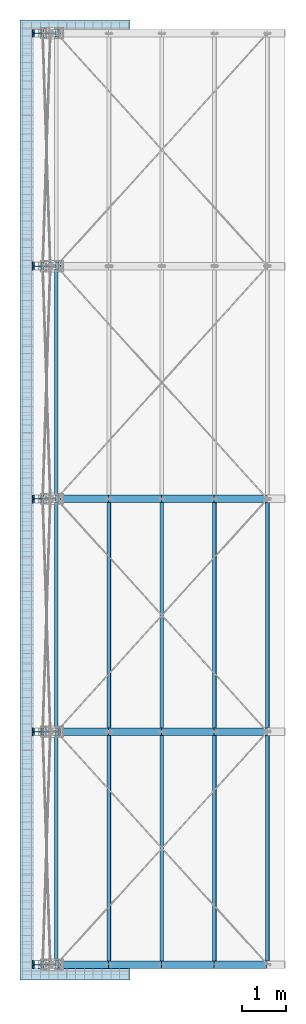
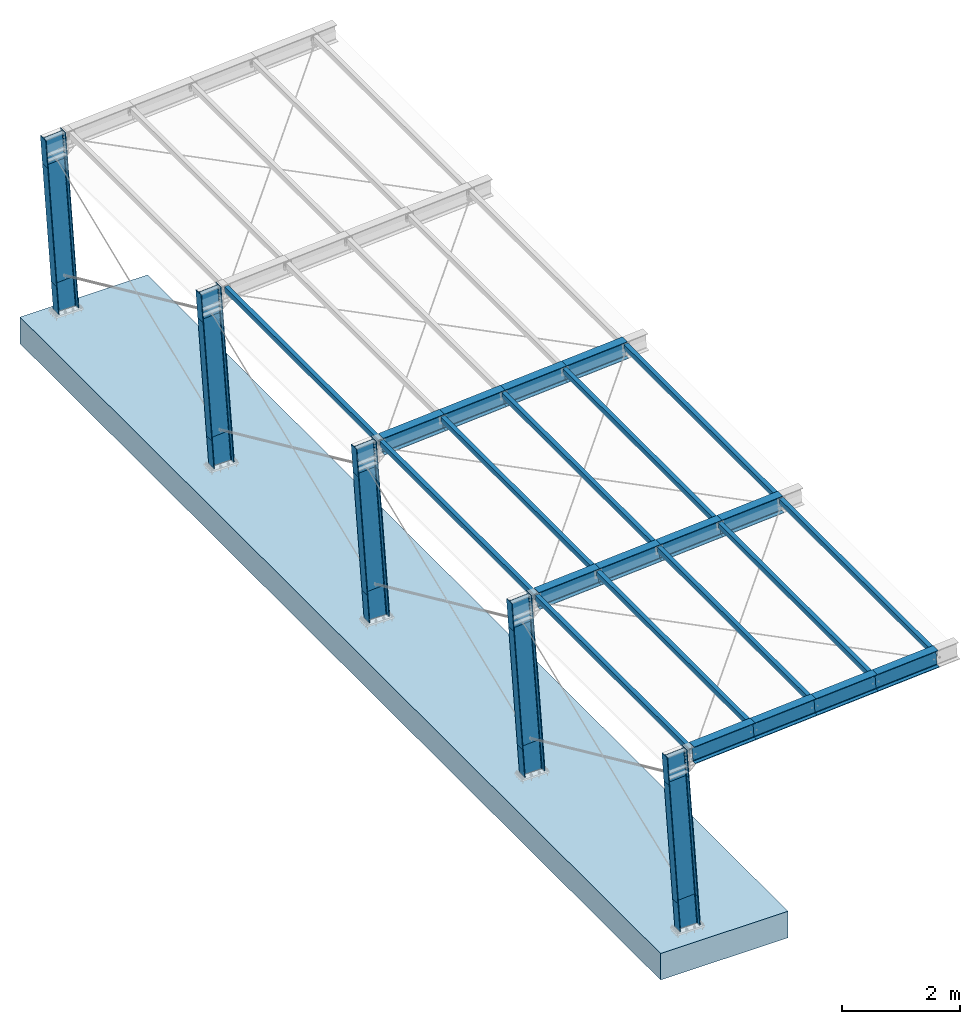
# One storey, part 1 of 72: 23 beams, 15 columns, 1 footing.
"""IFC4 building model written with IfcOpenShell, lengths in metres."""

import ifcopenshell
import ifcopenshell.guid

model = None  # the IFC model being written
_history = None  # IfcOwnerHistory: only IFC2X3 demands one
_inside = {}  # id of a spatial element -> (the spatial element, [elements in it])
_under = {}  # id of a project, library or spatial element -> (it, [spatial elements below it])
_declared = {}  # id of a project -> (the project, [libraries it declares])
_typed = {}  # id of a type object -> (the type object, [elements of that type])
_made_of = {}  # id of a material, layer set ... -> (it, [elements and type objects made of it])


def new_model(schema):
    """Start an empty IFC model of exactly this schema.

    Asked for "IFC4X3", IfcOpenShell would pick the latest addendum, in which some entities
    have other attributes; the version numbers below select the first issue.
    IFC2X3 requires an IfcOwnerHistory on every rooted entity: one is made here for all.
    """
    global model, _history
    if schema == "IFC4X3":
        model = ifcopenshell.file(schema_version=(4, 3, 0, 0))
    else:
        model = ifcopenshell.file(schema=schema)
    _inside.clear()
    _under.clear()
    _declared.clear()
    _typed.clear()
    _made_of.clear()
    _history = None
    if model.schema == "IFC2X3":
        org = make("IfcOrganization", Name="unknown")
        user = make(
            "IfcPersonAndOrganization",
            ThePerson=make("IfcPerson", FamilyName="unknown"),
            TheOrganization=org,
        )
        app = make(
            "IfcApplication",
            ApplicationDeveloper=org,
            Version="unknown",
            ApplicationFullName="unknown",
            ApplicationIdentifier="unknown",
        )
        _history = make(
            "IfcOwnerHistory",
            OwningUser=user,
            OwningApplication=app,
            ChangeAction="ADDED",
            CreationDate=0,
        )
    return model


def make(cls, **values):
    """One entity of the class cls with the attributes given. An attribute that is None is left unset."""
    return model.create_entity(
        cls, **{name: value for name, value in values.items() if value is not None}
    )


def rooted(cls, **values):
    """An entity with a GlobalId (a new one), such as an element, a storey or a relation."""
    return make(cls, GlobalId=ifcopenshell.guid.new(), OwnerHistory=_history, **values)


def si_unit(unit_type, name, prefix=None):
    """IfcSIUnit, for example si_unit("LENGTHUNIT", "METRE", prefix="MILLI")."""
    return make("IfcSIUnit", UnitType=unit_type, Prefix=prefix, Name=name)


def assignment(units):
    """IfcUnitAssignment: the units of a project."""
    return None if units is None else make("IfcUnitAssignment", Units=units)


def point(xyz):
    """IfcCartesianPoint."""
    return None if xyz is None else make("IfcCartesianPoint", Coordinates=xyz)


def direction(xyz):
    """IfcDirection."""
    return None if xyz is None else make("IfcDirection", DirectionRatios=xyz)


def frame(location, z_axis=None, x_axis=None):
    """IfcAxis2Placement3D, a coordinate frame: its origin and axes. An axis left out is left unset."""
    return make(
        "IfcAxis2Placement3D",
        Location=point(location),
        Axis=direction(z_axis),
        RefDirection=direction(x_axis),
    )


def frame_2d(location, x_axis=None):
    """IfcAxis2Placement2D, a coordinate frame in the plane: its origin and x axis."""
    return make(
        "IfcAxis2Placement2D", Location=point(location), RefDirection=direction(x_axis)
    )


def origin_with_axes():
    """The frame at (0, 0, 0) with the z axis (0, 0, 1) and the x axis (1, 0, 0) written out."""
    return frame((0.0, 0.0, 0.0), z_axis=(0.0, 0.0, 1.0), x_axis=(1.0, 0.0, 0.0))


def place(relative_to, where):
    """IfcLocalPlacement: puts the frame where relative to a parent placement (None: the world)."""
    return make(
        "IfcLocalPlacement", PlacementRelTo=relative_to, RelativePlacement=where
    )


def context(
    kind, dimensions, precision=None, world=None, true_north=None, identifier=None
):
    """IfcGeometricRepresentationContext, for example the 3D "Model" context."""
    return make(
        "IfcGeometricRepresentationContext",
        ContextIdentifier=identifier,
        ContextType=kind,
        CoordinateSpaceDimension=dimensions,
        Precision=precision,
        WorldCoordinateSystem=world,
        TrueNorth=true_north,
    )


def project(units=None, contexts=None):
    """IfcProject with its units and contexts."""
    return rooted(
        "IfcProject",
        Name="project",
        RepresentationContexts=contexts,
        UnitsInContext=assignment(units),
    )


def spatial(cls, under=None, at=None, **own):
    """A site, building, storey or space (cls), placed at a placement, below another one or the project."""
    s = rooted(cls, ObjectPlacement=at, **own)
    if under is not None:
        _under.setdefault(under.id(), (under, []))[1].append(s)
    return s


def profile(cls, at=None, kind="AREA", **sizes):
    """A parametric profile (cls). Its sizes go by their IFC names, for example OverallWidth=200.0."""
    return make(cls, ProfileType=kind, Position=at, **sizes)


def hollow_rectangle(**sizes):
    """IfcRectangleHollowProfileDef."""
    return profile("IfcRectangleHollowProfileDef", **sizes)


def i_section(**sizes):
    """IfcIShapeProfileDef."""
    return profile("IfcIShapeProfileDef", **sizes)


def extrude(swept, where, along, depth):
    """IfcExtrudedAreaSolid: the profile swept, set in the frame where, extruded along a direction by depth."""
    return make(
        "IfcExtrudedAreaSolid",
        SweptArea=swept,
        Position=where,
        ExtrudedDirection=direction(along),
        Depth=depth,
    )


def clip(a, b, op="DIFFERENCE"):
    """IfcBooleanClippingResult: the solid a cut by the half space b."""
    return make(
        "IfcBooleanClippingResult", Operator=op, FirstOperand=a, SecondOperand=b
    )


def halfspace(plane, agree):
    """IfcHalfSpaceSolid: all space on one side of the plane z = 0 of the frame plane."""
    return make(
        "IfcHalfSpaceSolid",
        BaseSurface=make("IfcPlane", Position=plane),
        AgreementFlag=agree,
    )


def faces_of(points, faces, orient=None, outer=None):
    """IfcFace entities. A face is a list of loops; a loop is a list of indices into points, from 0.

    orient and outer hold one flag for each loop. By default every Orientation is true, the
    first loop of a face is its IfcFaceOuterBound and the others are IfcFaceBound.
    """
    made = []
    for i, loops in enumerate(faces):
        bounds = []
        for j, loop in enumerate(loops):
            is_outer = j == 0 if outer is None else outer[i][j]
            bounds.append(
                make(
                    "IfcFaceOuterBound" if is_outer else "IfcFaceBound",
                    Bound=make("IfcPolyLoop", Polygon=[points[k] for k in loop]),
                    Orientation=True if orient is None else orient[i][j],
                )
            )
        made.append(make("IfcFace", Bounds=bounds))
    return made


def faceted_brep(points, faces, orient=None, outer=None, voids=None):
    """IfcFacetedBrep: a solid bounded by flat faces; with voids (closed shells), ...WithVoids."""
    shared = [point(p) for p in points]
    hull = make("IfcClosedShell", CfsFaces=faces_of(shared, faces, orient, outer))
    if voids is None:
        return make("IfcFacetedBrep", Outer=hull)
    return make(
        "IfcFacetedBrepWithVoids",
        Outer=hull,
        Voids=[
            make(cls, CfsFaces=faces_of(shared, fs, o, b)) for cls, fs, o, b in voids
        ],
    )


def shape(context_of_items, identifier, shape_type, items):
    """IfcShapeRepresentation: the items that make up one representation, for example the "Body"."""
    return make(
        "IfcShapeRepresentation",
        ContextOfItems=context_of_items,
        RepresentationIdentifier=identifier,
        RepresentationType=shape_type,
        Items=items,
    )


def material(Name=None, Category=None):
    """IfcMaterial."""
    return make("IfcMaterial", Name=Name, Category=Category)


def layer(
    of_material, thickness, ventilated=None, Name=None, Category=None, Priority=None
):
    """IfcMaterialLayer: one layer of a wall or slab, of a material (None: an air gap)."""
    return make(
        "IfcMaterialLayer",
        Material=of_material,
        LayerThickness=thickness,
        IsVentilated=ventilated,
        Name=Name,
        Category=Category,
        Priority=Priority,
    )


def layer_set(layers, Name=None):
    """IfcMaterialLayerSet."""
    return make("IfcMaterialLayerSet", MaterialLayers=layers, LayerSetName=Name)


def layer_usage(for_layer_set, set_direction, sense, offset, extent=None):
    """IfcMaterialLayerSetUsage: how a layer set lies in its element."""
    return make(
        "IfcMaterialLayerSetUsage",
        ForLayerSet=for_layer_set,
        LayerSetDirection=set_direction,
        DirectionSense=sense,
        OffsetFromReferenceLine=offset,
        ReferenceExtent=extent,
    )


def material_profile(
    of_material, cross_section, Name=None, Category=None, Priority=None
):
    """IfcMaterialProfile: a cross section and its material."""
    return make(
        "IfcMaterialProfile",
        Name=Name,
        Material=of_material,
        Profile=cross_section,
        Priority=Priority,
        Category=Category,
    )


def profile_set(profiles, Name=None, composite=None):
    """IfcMaterialProfileSet."""
    return make(
        "IfcMaterialProfileSet",
        Name=Name,
        MaterialProfiles=profiles,
        CompositeProfile=composite,
    )


def profile_usage(for_profile_set, cardinal=None, extent=None):
    """IfcMaterialProfileSetUsage: how a profile set lies along its element."""
    return make(
        "IfcMaterialProfileSetUsage",
        ForProfileSet=for_profile_set,
        CardinalPoint=cardinal,
        ReferenceExtent=extent,
    )


def made_of(thing, what):
    """Note that an element or type object is made of a material, layer set ...; save() writes the relation."""
    if what is not None:
        _made_of.setdefault(what.id(), (what, []))[1].append(thing)
    return thing


def type_object(cls, material=None, **own):
    """A type object (cls), such as IfcWallType, which elements share."""
    return made_of(rooted(cls, **own), material)


def element(
    cls,
    number,
    at=None,
    inside=None,
    cuts=None,
    type_object=None,
    material=None,
    context=None,
    identifier="Body",
    shape_type=None,
    held_by="IfcProductDefinitionShape",
    body=None,
    shapes=None,
    **own,
):
    """One element of the class cls, such as IfcWall. Its Tag is "e" and its number.

    at: its placement. inside: the storey or other place that contains it. cuts: it is an
    opening in that element (IfcRelVoidsElement). A single representation is given by context,
    identifier, shape_type and body (its items); several are given by shapes. held_by: the class
    of the entity that holds the representations. save() writes the other relations.
    """
    e = rooted(cls, Tag="e%d" % number, ObjectPlacement=at, **own)
    if body is not None:
        shapes = [shape(context, identifier, shape_type, body)]
    if shapes is not None:
        e.Representation = make(held_by, Representations=shapes)
    if inside is not None:
        _inside.setdefault(inside.id(), (inside, []))[1].append(e)
    if cuts is not None:
        rooted(
            "IfcRelVoidsElement", RelatingBuildingElement=cuts, RelatedOpeningElement=e
        )
    if type_object is not None:
        _typed.setdefault(type_object.id(), (type_object, []))[1].append(e)
    return made_of(e, material)


def aggregate(whole, parts):
    """IfcRelAggregates: a whole, such as a stair, and the parts it consists of."""
    return rooted("IfcRelAggregates", RelatingObject=whole, RelatedObjects=parts)


def save(model, path):
    """Write the relations noted so far, then the file.

    IfcRelAggregates (storeys below a building ...), IfcRelContainedInSpatialStructure (elements
    in a storey), IfcRelDefinesByType, IfcRelAssociatesMaterial and IfcRelDeclares: one each for
    every whole, place, type object, material and project.
    """
    for whole, parts in _under.values():
        aggregate(whole, parts)
    for where, things in _inside.values():
        rooted(
            "IfcRelContainedInSpatialStructure",
            RelatedElements=things,
            RelatingStructure=where,
        )
    for kind, things in _typed.values():
        rooted("IfcRelDefinesByType", RelatedObjects=things, RelatingType=kind)
    for what, things in _made_of.values():
        rooted("IfcRelAssociatesMaterial", RelatedObjects=things, RelatingMaterial=what)
    for by, libraries in _declared.values():
        rooted("IfcRelDeclares", RelatingContext=by, RelatedDefinitions=libraries)
    model.write(path)


model = new_model("IFC4")

# Units and contexts
model_context = context("Model", 3, precision=1e-05, world=origin_with_axes())
ifc_project = project(units=[si_unit("LENGTHUNIT", "METRE"), si_unit("AREAUNIT", "SQUARE_METRE"), si_unit("VOLUMEUNIT", "CUBIC_METRE"), si_unit("MASSUNIT", "GRAM", prefix="KILO"), si_unit("TIMEUNIT", "SECOND"), si_unit("PLANEANGLEUNIT", "RADIAN"), si_unit("SOLIDANGLEUNIT", "STERADIAN"), si_unit("THERMODYNAMICTEMPERATUREUNIT", "DEGREE_CELSIUS")], contexts=[model_context])

# Site, building, storey
placement_1 = place(None, origin_with_axes())
site = spatial("IfcSite", under=ifc_project, at=placement_1, Name="Italia", CompositionType="ELEMENT")
building = spatial("IfcBuilding", under=site, at=placement_1, Name="Pensilina", CompositionType="ELEMENT")
storey = spatial("IfcBuildingStorey", under=building, at=placement_1, Name="Storey 0", CompositionType="ELEMENT", Elevation=0.0)

# Footing
ifc_material_1 = material(Name="Calcestruzzo classe C25/30", Category="CEMENTO ARMATO")
ifc_layer = layer(ifc_material_1, 0.55)
ifc_layer_set = layer_set([ifc_layer])
ifc_layer_usage = layer_usage(ifc_layer_set, "AXIS3", "POSITIVE", -0.55)
footing_type = type_object("IfcFootingType", Name="1 fondazione", PredefinedType="STRIP_FOOTING")
placement_2 = place(placement_1, origin_with_axes())
footing_placement = place(placement_2, origin_with_axes())
element("IfcFooting", 1, at=footing_placement, inside=storey, type_object=footing_type, material=ifc_layer_usage, context=model_context, shape_type="Brep", body=[
    faceted_brep([(0.2, -0.35, -0.55), (0.2, -0.35, 0.0), (2.7, -0.35, 0.0), (2.7, -0.35, -0.55), (2.7, -0.35, -0.55), (2.7, -0.35, 0.0), (2.7, 21.42, 0.0), (2.7, 21.42, -0.55), (2.7, 21.42, -0.55), (2.7, 21.42, 0.0), (0.2, 21.42, 0.0), (0.2, 21.42, -0.55), (0.2, 21.42, -0.55), (0.2, 21.42, 0.0), (0.2, -0.35, 0.0), (0.2, -0.35, -0.55), (0.2, -0.35, 0.0), (2.7, -0.35, 0.0), (2.7, 21.42, 0.0), (0.2, 21.42, 0.0), (0.2, -0.35, -0.55), (2.7, -0.35, -0.55), (2.7, 21.42, -0.55), (0.2, 21.42, -0.55)], [[[0, 1, 2, 3]], [[4, 5, 6, 7]], [[8, 9, 10, 11]], [[12, 13, 14, 15]], [[16, 17, 18, 19]], [[20, 21, 22, 23]]]),
])

# Columns
ifc_material_2 = material(Name="Acciaio", Category="ACCIAIO")
ifc_material_profile = material_profile(ifc_material_2, i_section(OverallWidth=0.18, OverallDepth=0.4, WebThickness=0.0086, FlangeThickness=0.0135, FilletRadius=0.021, at=frame_2d((0.0, 0.0, 0.0), x_axis=(1.0, 0.0))), Name="1 IPE400")
ifc_profile_set = profile_set([ifc_material_profile])
column_type_1 = type_object("IfcColumnType", Name="1 IPE400", PredefinedType="COLUMN", material=ifc_profile_set)
column_1_placement = place(placement_2, frame((0.962218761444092, 0.0, -0.335468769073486), z_axis=(0.0, 0.0, 1.0), x_axis=(1.0, 0.0, 0.0)))
element("IfcColumn", 2, at=column_1_placement, inside=storey, type_object=column_type_1, Name="101", context=model_context, shape_type="Clipping", body=[
    clip(extrude(i_section(OverallWidth=0.18, OverallDepth=0.4, WebThickness=0.0086, FlangeThickness=0.0135, FilletRadius=0.021, at=frame_2d((0.0, 0.0, 0.0), x_axis=(1.0, 0.0))), frame((0.0, 0.0, 0.0), z_axis=(-0.068540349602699, 0.0, 0.997648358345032), x_axis=(0.0, -1.0, 0.0)), (0.0, 0.0, 1.0), 1.05), halfspace(frame((-0.0301723, 0.0, 0.439177), z_axis=(0.0, 0.0, -1.0), x_axis=(1.0, 0.0, 0.0)), False)),
])
ifc_profile_usage_1 = profile_usage(ifc_profile_set, cardinal=8)
column_type_2 = type_object("IfcColumnType", Name="1 IPE400", PredefinedType="COLUMN", material=ifc_profile_usage_1)
column_2_placement = place(placement_2, origin_with_axes())
element("IfcColumn", 3, at=column_2_placement, inside=storey, type_object=column_type_2, Name="101", context=model_context, shape_type="SweptSolid", body=[
    extrude(i_section(OverallWidth=0.18, OverallDepth=0.4, WebThickness=0.0086, FlangeThickness=0.0135, FilletRadius=0.021, at=frame_2d((0.0, 0.0, 0.0), x_axis=(1.0, 0.0))), frame((0.890251, 0.0, 0.712062), z_axis=(-0.068540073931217, 0.0, 0.997648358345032), x_axis=(0.0, -1.0, 0.0)), (0.0, 0.0, 1.0), 2.5205),
])
ifc_profile_usage_2 = profile_usage(ifc_profile_set, cardinal=8)
column_type_3 = type_object("IfcColumnType", Name="1 IPE400", PredefinedType="COLUMN", material=ifc_profile_usage_2)
column_3_placement = place(placement_2, frame((0.962218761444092, 5.28000020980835, -0.335468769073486), z_axis=(0.0, 0.0, 1.0), x_axis=(1.0, 0.0, 0.0)))
element("IfcColumn", 4, at=column_3_placement, inside=storey, type_object=column_type_3, Name="102", context=model_context, shape_type="Clipping", body=[
    clip(extrude(i_section(OverallWidth=0.18, OverallDepth=0.4, WebThickness=0.0086, FlangeThickness=0.0135, FilletRadius=0.021, at=frame_2d((0.0, 0.0, 0.0), x_axis=(1.0, 0.0))), frame((0.0, 0.0, 0.0), z_axis=(-0.068540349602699, 0.0, 0.997648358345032), x_axis=(0.0, -1.0, 0.0)), (0.0, 0.0, 1.0), 1.05), halfspace(frame((-0.0301723, 0.0, 0.439177), z_axis=(0.0, 0.0, -1.0), x_axis=(1.0, 0.0, 0.0)), False)),
])
ifc_profile_usage_3 = profile_usage(ifc_profile_set, cardinal=8)
column_type_4 = type_object("IfcColumnType", Name="1 IPE400", PredefinedType="COLUMN", material=ifc_profile_usage_3)
column_4_placement = place(placement_2, origin_with_axes())
element("IfcColumn", 5, at=column_4_placement, inside=storey, type_object=column_type_4, Name="102", context=model_context, shape_type="SweptSolid", body=[
    extrude(i_section(OverallWidth=0.18, OverallDepth=0.4, WebThickness=0.0086, FlangeThickness=0.0135, FilletRadius=0.021, at=frame_2d((0.0, 0.0, 0.0), x_axis=(1.0, 0.0))), frame((0.890251, 5.28, 0.712062), z_axis=(-0.068540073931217, 0.0, 0.997648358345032), x_axis=(0.0, -1.0, 0.0)), (0.0, 0.0, 1.0), 2.5205),
])
ifc_profile_usage_4 = profile_usage(ifc_profile_set, cardinal=8)
column_type_5 = type_object("IfcColumnType", Name="1 IPE400", PredefinedType="COLUMN", material=ifc_profile_usage_4)
column_5_placement = place(placement_2, origin_with_axes())
element("IfcColumn", 6, at=column_5_placement, inside=storey, type_object=column_type_5, Name="102", context=model_context, shape_type="SweptSolid", body=[
    extrude(i_section(OverallWidth=0.18, OverallDepth=0.4, WebThickness=0.0086, FlangeThickness=0.0135, FilletRadius=0.021, at=frame_2d((0.0, 0.0, 0.0), x_axis=(1.0, 0.0))), frame((0.717496, 5.28, 3.22663), z_axis=(-0.068539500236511, 0.0, 0.997648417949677), x_axis=(0.0, -1.0, 0.0)), (0.0, 0.0, 1.0), 0.588033),
])
ifc_profile_usage_5 = profile_usage(ifc_profile_set, cardinal=8)
column_type_6 = type_object("IfcColumnType", Name="1 IPE400", PredefinedType="COLUMN", material=ifc_profile_usage_5)
column_6_placement = place(placement_2, frame((0.962218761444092, 10.5600004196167, -0.335468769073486), z_axis=(0.0, 0.0, 1.0), x_axis=(1.0, 0.0, 0.0)))
element("IfcColumn", 7, at=column_6_placement, inside=storey, type_object=column_type_6, Name="103", context=model_context, shape_type="Clipping", body=[
    clip(extrude(i_section(OverallWidth=0.18, OverallDepth=0.4, WebThickness=0.0086, FlangeThickness=0.0135, FilletRadius=0.021, at=frame_2d((0.0, 0.0, 0.0), x_axis=(1.0, 0.0))), frame((0.0, 0.0, 0.0), z_axis=(-0.068540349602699, 0.0, 0.997648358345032), x_axis=(0.0, -1.0, 0.0)), (0.0, 0.0, 1.0), 1.05), halfspace(frame((-0.0301723, 0.0, 0.439177), z_axis=(0.0, 0.0, -1.0), x_axis=(1.0, 0.0, 0.0)), False)),
])
ifc_profile_usage_6 = profile_usage(ifc_profile_set, cardinal=8)
column_type_7 = type_object("IfcColumnType", Name="1 IPE400", PredefinedType="COLUMN", material=ifc_profile_usage_6)
column_7_placement = place(placement_2, origin_with_axes())
element("IfcColumn", 8, at=column_7_placement, inside=storey, type_object=column_type_7, Name="103", context=model_context, shape_type="SweptSolid", body=[
    extrude(i_section(OverallWidth=0.18, OverallDepth=0.4, WebThickness=0.0086, FlangeThickness=0.0135, FilletRadius=0.021, at=frame_2d((0.0, 0.0, 0.0), x_axis=(1.0, 0.0))), frame((0.890251, 10.56, 0.712062), z_axis=(-0.068540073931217, 0.0, 0.997648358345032), x_axis=(0.0, -1.0, 0.0)), (0.0, 0.0, 1.0), 2.5205),
])
ifc_profile_usage_7 = profile_usage(ifc_profile_set, cardinal=8)
column_type_8 = type_object("IfcColumnType", Name="1 IPE400", PredefinedType="COLUMN", material=ifc_profile_usage_7)
column_8_placement = place(placement_2, origin_with_axes())
element("IfcColumn", 9, at=column_8_placement, inside=storey, type_object=column_type_8, Name="103", context=model_context, shape_type="SweptSolid", body=[
    extrude(i_section(OverallWidth=0.18, OverallDepth=0.4, WebThickness=0.0086, FlangeThickness=0.0135, FilletRadius=0.021, at=frame_2d((0.0, 0.0, 0.0), x_axis=(1.0, 0.0))), frame((0.717496, 10.56, 3.22663), z_axis=(-0.068539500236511, 0.0, 0.997648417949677), x_axis=(0.0, -1.0, 0.0)), (0.0, 0.0, 1.0), 0.588033),
])
ifc_profile_usage_8 = profile_usage(ifc_profile_set, cardinal=8)
column_type_9 = type_object("IfcColumnType", Name="1 IPE400", PredefinedType="COLUMN", material=ifc_profile_usage_8)
column_9_placement = place(placement_2, frame((0.962218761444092, 15.839999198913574, -0.335468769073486), z_axis=(0.0, 0.0, 1.0), x_axis=(1.0, 0.0, 0.0)))
element("IfcColumn", 10, at=column_9_placement, inside=storey, type_object=column_type_9, Name="104", context=model_context, shape_type="Clipping", body=[
    clip(extrude(i_section(OverallWidth=0.18, OverallDepth=0.4, WebThickness=0.0086, FlangeThickness=0.0135, FilletRadius=0.021, at=frame_2d((0.0, 0.0, 0.0), x_axis=(1.0, 0.0))), frame((0.0, 0.0, 0.0), z_axis=(-0.068540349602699, 0.0, 0.997648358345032), x_axis=(0.0, -1.0, 0.0)), (0.0, 0.0, 1.0), 1.05), halfspace(frame((-0.0301723, 0.0, 0.439177), z_axis=(0.0, 0.0, -1.0), x_axis=(1.0, 0.0, 0.0)), False)),
])
ifc_profile_usage_9 = profile_usage(ifc_profile_set, cardinal=8)
column_type_10 = type_object("IfcColumnType", Name="1 IPE400", PredefinedType="COLUMN", material=ifc_profile_usage_9)
column_10_placement = place(placement_2, origin_with_axes())
element("IfcColumn", 11, at=column_10_placement, inside=storey, type_object=column_type_10, Name="104", context=model_context, shape_type="SweptSolid", body=[
    extrude(i_section(OverallWidth=0.18, OverallDepth=0.4, WebThickness=0.0086, FlangeThickness=0.0135, FilletRadius=0.021, at=frame_2d((0.0, 0.0, 0.0), x_axis=(1.0, 0.0))), frame((0.890251, 15.84, 0.712062), z_axis=(-0.068540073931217, 0.0, 0.997648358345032), x_axis=(0.0, -1.0, 0.0)), (0.0, 0.0, 1.0), 2.5205),
])
ifc_profile_usage_10 = profile_usage(ifc_profile_set, cardinal=8)
column_type_11 = type_object("IfcColumnType", Name="1 IPE400", PredefinedType="COLUMN", material=ifc_profile_usage_10)
column_11_placement = place(placement_2, origin_with_axes())
element("IfcColumn", 12, at=column_11_placement, inside=storey, type_object=column_type_11, Name="104", context=model_context, shape_type="SweptSolid", body=[
    extrude(i_section(OverallWidth=0.18, OverallDepth=0.4, WebThickness=0.0086, FlangeThickness=0.0135, FilletRadius=0.021, at=frame_2d((0.0, 0.0, 0.0), x_axis=(1.0, 0.0))), frame((0.717496, 15.84, 3.22663), z_axis=(-0.068539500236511, 0.0, 0.997648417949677), x_axis=(0.0, -1.0, 0.0)), (0.0, 0.0, 1.0), 0.588033),
])
ifc_profile_usage_11 = profile_usage(ifc_profile_set, cardinal=8)
column_type_12 = type_object("IfcColumnType", Name="1 IPE400", PredefinedType="COLUMN", material=ifc_profile_usage_11)
column_12_placement = place(placement_2, frame((0.962218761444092, 21.1200008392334, -0.335468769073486), z_axis=(0.0, 0.0, 1.0), x_axis=(1.0, 0.0, 0.0)))
element("IfcColumn", 13, at=column_12_placement, inside=storey, type_object=column_type_12, Name="105", context=model_context, shape_type="Clipping", body=[
    clip(extrude(i_section(OverallWidth=0.18, OverallDepth=0.4, WebThickness=0.0086, FlangeThickness=0.0135, FilletRadius=0.021, at=frame_2d((0.0, 0.0, 0.0), x_axis=(1.0, 0.0))), frame((0.0, 0.0, 0.0), z_axis=(-0.068540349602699, 0.0, 0.997648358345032), x_axis=(0.0, -1.0, 0.0)), (0.0, 0.0, 1.0), 1.05), halfspace(frame((-0.0301723, 0.0, 0.439177), z_axis=(0.0, 0.0, -1.0), x_axis=(1.0, 0.0, 0.0)), False)),
])
ifc_profile_usage_12 = profile_usage(ifc_profile_set, cardinal=8)
column_type_13 = type_object("IfcColumnType", Name="1 IPE400", PredefinedType="COLUMN", material=ifc_profile_usage_12)
column_13_placement = place(placement_2, origin_with_axes())
element("IfcColumn", 14, at=column_13_placement, inside=storey, type_object=column_type_13, Name="105", context=model_context, shape_type="SweptSolid", body=[
    extrude(i_section(OverallWidth=0.18, OverallDepth=0.4, WebThickness=0.0086, FlangeThickness=0.0135, FilletRadius=0.021, at=frame_2d((0.0, 0.0, 0.0), x_axis=(1.0, 0.0))), frame((0.890251, 21.12, 0.712062), z_axis=(-0.068540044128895, -7.56734266e-07, 0.997648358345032), x_axis=(1.104076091e-05, -1.0, 0.0)), (0.0, 0.0, 1.0), 2.5205),
])
ifc_profile_usage_13 = profile_usage(ifc_profile_set, cardinal=8)
column_type_14 = type_object("IfcColumnType", Name="1 IPE400", PredefinedType="COLUMN", material=ifc_profile_usage_13)
column_14_placement = place(placement_2, origin_with_axes())
element("IfcColumn", 15, at=column_14_placement, inside=storey, type_object=column_type_14, Name="105", context=model_context, shape_type="SweptSolid", body=[
    extrude(i_section(OverallWidth=0.18, OverallDepth=0.4, WebThickness=0.0086, FlangeThickness=0.0135, FilletRadius=0.021, at=frame_2d((0.0, 0.0, 0.0), x_axis=(1.0, 0.0))), frame((0.717496, 21.12, 3.22663), z_axis=(-0.068539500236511, 0.0, 0.997648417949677), x_axis=(0.0, -1.0, 0.0)), (0.0, 0.0, 1.0), 0.588033),
])
ifc_profile_usage_14 = profile_usage(ifc_profile_set, cardinal=8)
column_type_15 = type_object("IfcColumnType", Name="1 IPE400", PredefinedType="COLUMN", material=ifc_profile_usage_14)
column_15_placement = place(placement_2, origin_with_axes())
element("IfcColumn", 16, at=column_15_placement, inside=storey, type_object=column_type_15, Name="101", context=model_context, shape_type="SweptSolid", body=[
    extrude(i_section(OverallWidth=0.18, OverallDepth=0.4, WebThickness=0.0086, FlangeThickness=0.0135, FilletRadius=0.021, at=frame_2d((0.0, 0.0, 0.0), x_axis=(1.0, 0.0))), frame((0.717496, 0.0, 3.22663), z_axis=(-0.068539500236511, 0.0, 0.997648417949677), x_axis=(0.0, -1.0, 0.0)), (0.0, 0.0, 1.0), 0.588033),
])

# Beams
ifc_profile_usage_15 = profile_usage(ifc_profile_set, cardinal=5)
beam_type_1 = type_object("IfcBeamType", Name="3 IPE360", PredefinedType="BEAM", material=ifc_profile_usage_15)
beam_1_placement = place(placement_2, origin_with_axes())
element("IfcBeam", 17, at=beam_1_placement, inside=storey, type_object=beam_type_1, Name="701", context=model_context, shape_type="SweptSolid", body=[
    extrude(i_section(OverallWidth=0.17, OverallDepth=0.36, WebThickness=0.008, FlangeThickness=0.0127, FilletRadius=0.018, at=frame_2d((0.0, 0.0, 0.0), x_axis=(1.0, 0.0))), frame((2.22096, 0.0, 3.73892), z_axis=(0.997648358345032, 0.0, 0.068540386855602), x_axis=(0.0, 1.0, 0.0)), (0.0, 0.0, 1.0), 1.19995),
])
ifc_profile_usage_16 = profile_usage(ifc_profile_set, cardinal=5)
beam_type_2 = type_object("IfcBeamType", Name="3 IPE360", PredefinedType="BEAM", material=ifc_profile_usage_16)
beam_2_placement = place(placement_2, origin_with_axes())
element("IfcBeam", 18, at=beam_2_placement, inside=storey, type_object=beam_type_2, Name="701", context=model_context, shape_type="SweptSolid", body=[
    extrude(i_section(OverallWidth=0.17, OverallDepth=0.36, WebThickness=0.008, FlangeThickness=0.0127, FilletRadius=0.018, at=frame_2d((0.0, 0.0, 0.0), x_axis=(1.0, 0.0))), frame((3.41809, 0.0, 3.82117), z_axis=(0.997648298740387, 0.0, 0.068541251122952), x_axis=(0.0, 1.0, 0.0)), (0.0, 0.0, 1.0), 1.20003),
])
ifc_profile_usage_17 = profile_usage(ifc_profile_set, cardinal=5)
beam_type_3 = type_object("IfcBeamType", Name="3 IPE360", PredefinedType="BEAM", material=ifc_profile_usage_17)
beam_3_placement = place(placement_2, origin_with_axes())
element("IfcBeam", 19, at=beam_3_placement, inside=storey, type_object=beam_type_3, Name="701", context=model_context, shape_type="SweptSolid", body=[
    extrude(i_section(OverallWidth=0.17, OverallDepth=0.36, WebThickness=0.008, FlangeThickness=0.0127, FilletRadius=0.018, at=frame_2d((0.0, 0.0, 0.0), x_axis=(1.0, 0.0))), frame((4.6153, 0.0, 3.90342), z_axis=(0.997648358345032, 0.0, 0.068540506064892), x_axis=(0.0, 1.0, 0.0)), (0.0, 0.0, 1.0), 1.20003),
])
ifc_profile_usage_18 = profile_usage(ifc_profile_set, cardinal=5)
beam_type_4 = type_object("IfcBeamType", Name="3 IPE360", PredefinedType="BEAM", material=ifc_profile_usage_18)
beam_4_placement = place(placement_2, origin_with_axes())
element("IfcBeam", 20, at=beam_4_placement, inside=storey, type_object=beam_type_4, Name="702", context=model_context, shape_type="SweptSolid", body=[
    extrude(i_section(OverallWidth=0.17, OverallDepth=0.36, WebThickness=0.008, FlangeThickness=0.0127, FilletRadius=0.018, at=frame_2d((0.0, 0.0, 0.0), x_axis=(1.0, 0.0))), frame((2.22096, 5.28, 3.73892), z_axis=(0.997648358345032, 0.0, 0.068540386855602), x_axis=(0.0, 1.0, 0.0)), (0.0, 0.0, 1.0), 1.19995),
])
ifc_profile_usage_19 = profile_usage(ifc_profile_set, cardinal=5)
beam_type_5 = type_object("IfcBeamType", Name="3 IPE360", PredefinedType="BEAM", material=ifc_profile_usage_19)
beam_5_placement = place(placement_2, origin_with_axes())
element("IfcBeam", 21, at=beam_5_placement, inside=storey, type_object=beam_type_5, Name="702", context=model_context, shape_type="SweptSolid", body=[
    extrude(i_section(OverallWidth=0.17, OverallDepth=0.36, WebThickness=0.008, FlangeThickness=0.0127, FilletRadius=0.018, at=frame_2d((0.0, 0.0, 0.0), x_axis=(1.0, 0.0))), frame((3.41809, 5.28, 3.82117), z_axis=(0.997648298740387, 0.0, 0.068541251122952), x_axis=(0.0, 1.0, 0.0)), (0.0, 0.0, 1.0), 1.20003),
])
ifc_profile_usage_20 = profile_usage(ifc_profile_set, cardinal=5)
beam_type_6 = type_object("IfcBeamType", Name="3 IPE360", PredefinedType="BEAM", material=ifc_profile_usage_20)
beam_6_placement = place(placement_2, origin_with_axes())
element("IfcBeam", 22, at=beam_6_placement, inside=storey, type_object=beam_type_6, Name="702", context=model_context, shape_type="SweptSolid", body=[
    extrude(i_section(OverallWidth=0.17, OverallDepth=0.36, WebThickness=0.008, FlangeThickness=0.0127, FilletRadius=0.018, at=frame_2d((0.0, 0.0, 0.0), x_axis=(1.0, 0.0))), frame((4.6153, 5.28, 3.90342), z_axis=(0.997648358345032, 0.0, 0.068540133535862), x_axis=(0.0, 1.0, 0.0)), (0.0, 0.0, 1.0), 1.20003),
])
ifc_profile_usage_21 = profile_usage(ifc_profile_set, cardinal=5)
beam_type_7 = type_object("IfcBeamType", Name="9 RHS120x80x5", PredefinedType="BEAM", material=ifc_profile_usage_21)
beam_7_placement = place(placement_2, frame((2.218269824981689, -2.640000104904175, 3.778830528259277), z_axis=(0.0, 0.0, 1.0), x_axis=(1.0, 0.0, 0.0)))
element("IfcBeam", 23, at=beam_7_placement, inside=storey, type_object=beam_type_7, Name="307", context=model_context, shape_type="Clipping", body=[
    clip(clip(extrude(hollow_rectangle(XDim=0.08, YDim=0.12, WallThickness=0.005, at=frame_2d((0.0, 0.0, 0.0), x_axis=(0.997731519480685, -0.067318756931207))), frame((0.0, 0.0, 0.0), z_axis=(0.0, 1.0, 0.0), x_axis=(-1.0, 0.0, 0.0)), (0.0, 0.0, 1.0), 10.56), halfspace(frame((-0.00825715, 2.654, 0.0109689), z_axis=(0.0, -1.0, 0.0), x_axis=(1.0, 0.0, 0.0)), False)), halfspace(frame((-0.00825715, 7.896, 0.0109689), z_axis=(0.0, -1.0, 0.0), x_axis=(1.0, 0.0, 0.0)), True)),
])
ifc_profile_usage_22 = profile_usage(ifc_profile_set, cardinal=5)
beam_type_8 = type_object("IfcBeamType", Name="9 RHS120x80x5", PredefinedType="BEAM", material=ifc_profile_usage_22)
beam_8_placement = place(placement_2, frame((3.415399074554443, -2.640000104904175, 3.861075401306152), z_axis=(0.0, 0.0, 1.0), x_axis=(1.0, 0.0, 0.0)))
element("IfcBeam", 24, at=beam_8_placement, inside=storey, type_object=beam_type_8, Name="408", context=model_context, shape_type="Clipping", body=[
    clip(clip(extrude(hollow_rectangle(XDim=0.08, YDim=0.12, WallThickness=0.005, at=frame_2d((0.0, 0.0, 0.0), x_axis=(0.997731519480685, -0.067318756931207))), frame((0.0, 0.0, 0.0), z_axis=(0.0, 1.0, 0.0), x_axis=(-1.0, 0.0, 0.0)), (0.0, 0.0, 1.0), 10.56), halfspace(frame((-0.00825691, 2.654, 0.0109687), z_axis=(0.0, -1.0, 0.0), x_axis=(1.0, 0.0, 0.0)), False)), halfspace(frame((-0.00825691, 7.901, 0.0109687), z_axis=(0.0, -1.0, 0.0), x_axis=(1.0, 0.0, 0.0)), True)),
])
ifc_profile_usage_23 = profile_usage(ifc_profile_set, cardinal=5)
beam_type_9 = type_object("IfcBeamType", Name="9 RHS120x80x5", PredefinedType="BEAM", material=ifc_profile_usage_23)
beam_9_placement = place(placement_2, frame((4.612606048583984, -2.640000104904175, 3.943326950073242), z_axis=(0.0, 0.0, 1.0), x_axis=(1.0, 0.0, 0.0)))
element("IfcBeam", 25, at=beam_9_placement, inside=storey, type_object=beam_type_9, Name="509", context=model_context, shape_type="Clipping", body=[
    clip(clip(extrude(hollow_rectangle(XDim=0.08, YDim=0.12, WallThickness=0.005, at=frame_2d((0.0, 0.0, 0.0), x_axis=(0.997731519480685, -0.067318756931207))), frame((0.0, 0.0, 0.0), z_axis=(0.0, 1.0, 0.0), x_axis=(-1.0, 0.0, 0.0)), (0.0, 0.0, 1.0), 10.56), halfspace(frame((-0.00825739, 2.654, 0.0109692), z_axis=(0.0, -1.0, 0.0), x_axis=(1.0, 0.0, 0.0)), False)), halfspace(frame((-0.00825739, 7.901, 0.0109692), z_axis=(0.0, -1.0, 0.0), x_axis=(1.0, 0.0, 0.0)), True)),
])
ifc_profile_usage_24 = profile_usage(ifc_profile_set, cardinal=5)
beam_type_10 = type_object("IfcBeamType", Name="9 RHS120x80x5", PredefinedType="BEAM", material=ifc_profile_usage_24)
beam_10_placement = place(placement_2, frame((5.809813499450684, -2.640000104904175, 4.025577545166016), z_axis=(0.0, 0.0, 1.0), x_axis=(1.0, 0.0, 0.0)))
element("IfcBeam", 26, at=beam_10_placement, inside=storey, type_object=beam_type_10, Name="610", context=model_context, shape_type="Clipping", body=[
    clip(clip(extrude(hollow_rectangle(XDim=0.08, YDim=0.12, WallThickness=0.005, at=frame_2d((0.0, 0.0, 0.0), x_axis=(0.997731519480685, -0.067318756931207))), frame((0.0, 0.0, 0.0), z_axis=(0.0, 1.0, 0.0), x_axis=(-1.0, 0.0, 0.0)), (0.0, 0.0, 1.0), 10.56), halfspace(frame((-0.00825691, 2.654, 0.0109687), z_axis=(0.0, -1.0, 0.0), x_axis=(1.0, 0.0, 0.0)), False)), halfspace(frame((-0.00825691, 7.901, 0.0109687), z_axis=(0.0, -1.0, 0.0), x_axis=(1.0, 0.0, 0.0)), True)),
])
ifc_profile_usage_25 = profile_usage(ifc_profile_set, cardinal=5)
beam_type_11 = type_object("IfcBeamType", Name="3 IPE360", PredefinedType="BEAM", material=ifc_profile_usage_25)
beam_11_placement = place(placement_2, origin_with_axes())
element("IfcBeam", 27, at=beam_11_placement, inside=storey, type_object=beam_type_11, Name="703", context=model_context, shape_type="SweptSolid", body=[
    extrude(i_section(OverallWidth=0.17, OverallDepth=0.36, WebThickness=0.008, FlangeThickness=0.0127, FilletRadius=0.018, at=frame_2d((0.0, 0.0, 0.0), x_axis=(1.0, 0.0))), frame((2.22096, 10.56, 3.73892), z_axis=(0.997648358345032, 0.0, 0.068540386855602), x_axis=(0.0, 1.0, 0.0)), (0.0, 0.0, 1.0), 1.19995),
])
ifc_profile_usage_26 = profile_usage(ifc_profile_set, cardinal=5)
beam_type_12 = type_object("IfcBeamType", Name="3 IPE360", PredefinedType="BEAM", material=ifc_profile_usage_26)
beam_12_placement = place(placement_2, origin_with_axes())
element("IfcBeam", 28, at=beam_12_placement, inside=storey, type_object=beam_type_12, Name="703", context=model_context, shape_type="SweptSolid", body=[
    extrude(i_section(OverallWidth=0.17, OverallDepth=0.36, WebThickness=0.008, FlangeThickness=0.0127, FilletRadius=0.018, at=frame_2d((0.0, 0.0, 0.0), x_axis=(1.0, 0.0))), frame((3.41809, 10.56, 3.82117), z_axis=(0.997648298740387, 0.0, 0.068541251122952), x_axis=(0.0, 1.0, 0.0)), (0.0, 0.0, 1.0), 1.20003),
])
ifc_profile_usage_27 = profile_usage(ifc_profile_set, cardinal=5)
beam_type_13 = type_object("IfcBeamType", Name="3 IPE360", PredefinedType="BEAM", material=ifc_profile_usage_27)
beam_13_placement = place(placement_2, origin_with_axes())
element("IfcBeam", 29, at=beam_13_placement, inside=storey, type_object=beam_type_13, Name="703", context=model_context, shape_type="SweptSolid", body=[
    extrude(i_section(OverallWidth=0.17, OverallDepth=0.36, WebThickness=0.008, FlangeThickness=0.0127, FilletRadius=0.018, at=frame_2d((0.0, 0.0, 0.0), x_axis=(1.0, 0.0))), frame((4.6153, 10.56, 3.90342), z_axis=(0.997648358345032, 0.0, 0.068540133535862), x_axis=(0.0, 1.0, 0.0)), (0.0, 0.0, 1.0), 1.20003),
])
ifc_profile_usage_28 = profile_usage(ifc_profile_set, cardinal=5)
beam_type_14 = type_object("IfcBeamType", Name="9 RHS120x80x5", PredefinedType="BEAM", material=ifc_profile_usage_28)
beam_14_placement = place(placement_2, frame((2.218269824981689, 2.640000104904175, 3.778831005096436), z_axis=(0.0, 0.0, 1.0), x_axis=(1.0, 0.0, 0.0)))
element("IfcBeam", 30, at=beam_14_placement, inside=storey, type_object=beam_type_14, Name="307", context=model_context, shape_type="Clipping", body=[
    clip(clip(extrude(hollow_rectangle(XDim=0.08, YDim=0.12, WallThickness=0.005, at=frame_2d((0.0, 0.0, 0.0), x_axis=(0.997731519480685, -0.067318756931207))), frame((0.0, 0.0, 0.0), z_axis=(0.0, 1.0, 0.0), x_axis=(-1.0, 0.0, 0.0)), (0.0, 0.0, 1.0), 10.56), halfspace(frame((-0.00825715, 2.664, 0.0109689), z_axis=(0.0, -1.0, 0.0), x_axis=(1.0, 0.0, 0.0)), False)), halfspace(frame((-0.00825715, 7.901, 0.0109689), z_axis=(0.0, -1.0, 0.0), x_axis=(1.0, 0.0, 0.0)), True)),
])
ifc_profile_usage_29 = profile_usage(ifc_profile_set, cardinal=5)
beam_type_15 = type_object("IfcBeamType", Name="9 RHS120x80x5", PredefinedType="BEAM", material=ifc_profile_usage_29)
beam_15_placement = place(placement_2, frame((3.415399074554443, 2.640000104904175, 3.861075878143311), z_axis=(0.0, 0.0, 1.0), x_axis=(1.0, 0.0, 0.0)))
element("IfcBeam", 31, at=beam_15_placement, inside=storey, type_object=beam_type_15, Name="408", context=model_context, shape_type="Clipping", body=[
    clip(clip(extrude(hollow_rectangle(XDim=0.08, YDim=0.12, WallThickness=0.005, at=frame_2d((0.0, 0.0, 0.0), x_axis=(0.997731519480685, -0.067318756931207))), frame((0.0, 0.0, 0.0), z_axis=(0.0, 1.0, 0.0), x_axis=(-1.0, 0.0, 0.0)), (0.0, 0.0, 1.0), 10.56), halfspace(frame((-0.00825691, 2.659, 0.0109692), z_axis=(0.0, -1.0, 0.0), x_axis=(1.0, 0.0, 0.0)), False)), halfspace(frame((-0.00825691, 7.901, 0.0109692), z_axis=(0.0, -1.0, 0.0), x_axis=(1.0, 0.0, 0.0)), True)),
])
ifc_profile_usage_30 = profile_usage(ifc_profile_set, cardinal=5)
beam_type_16 = type_object("IfcBeamType", Name="9 RHS120x80x5", PredefinedType="BEAM", material=ifc_profile_usage_30)
beam_16_placement = place(placement_2, frame((4.612606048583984, 2.640000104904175, 3.9433274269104), z_axis=(0.0, 0.0, 1.0), x_axis=(1.0, 0.0, 0.0)))
element("IfcBeam", 32, at=beam_16_placement, inside=storey, type_object=beam_type_16, Name="509", context=model_context, shape_type="Clipping", body=[
    clip(clip(extrude(hollow_rectangle(XDim=0.08, YDim=0.12, WallThickness=0.005, at=frame_2d((0.0, 0.0, 0.0), x_axis=(0.997731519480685, -0.067318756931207))), frame((0.0, 0.0, 0.0), z_axis=(0.0, 1.0, 0.0), x_axis=(-1.0, 0.0, 0.0)), (0.0, 0.0, 1.0), 10.56), halfspace(frame((-0.00825739, 2.659, 0.0109689), z_axis=(0.0, -1.0, 0.0), x_axis=(1.0, 0.0, 0.0)), False)), halfspace(frame((-0.00825739, 7.901, 0.0109689), z_axis=(0.0, -1.0, 0.0), x_axis=(1.0, 0.0, 0.0)), True)),
])
ifc_profile_usage_31 = profile_usage(ifc_profile_set, cardinal=5)
beam_type_17 = type_object("IfcBeamType", Name="9 RHS120x80x5", PredefinedType="BEAM", material=ifc_profile_usage_31)
beam_17_placement = place(placement_2, frame((5.809812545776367, 2.640000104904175, 4.025577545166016), z_axis=(0.0, 0.0, 1.0), x_axis=(1.0, 0.0, 0.0)))
element("IfcBeam", 33, at=beam_17_placement, inside=storey, type_object=beam_type_17, Name="610", context=model_context, shape_type="Clipping", body=[
    clip(clip(extrude(hollow_rectangle(XDim=0.08, YDim=0.12, WallThickness=0.005, at=frame_2d((0.0, 0.0, 0.0), x_axis=(0.997731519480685, -0.067318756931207))), frame((0.0, 0.0, 0.0), z_axis=(0.0, 1.0, 0.0), x_axis=(-1.0, 0.0, 0.0)), (0.0, 0.0, 1.0), 10.56), halfspace(frame((-0.00825691, 2.659, 0.0109687), z_axis=(0.0, -1.0, 0.0), x_axis=(1.0, 0.0, 0.0)), False)), halfspace(frame((-0.00825691, 7.901, 0.0109687), z_axis=(0.0, -1.0, 0.0), x_axis=(1.0, 0.0, 0.0)), True)),
])
ifc_profile_usage_32 = profile_usage(ifc_profile_set, cardinal=5)
beam_type_18 = type_object("IfcBeamType", Name="3 IPE360", PredefinedType="BEAM", material=ifc_profile_usage_32)
beam_18_placement = place(placement_2, origin_with_axes())
element("IfcBeam", 34, at=beam_18_placement, inside=storey, type_object=beam_type_18, Name="701", context=model_context, shape_type="SweptSolid", body=[
    extrude(i_section(OverallWidth=0.17, OverallDepth=0.36, WebThickness=0.008, FlangeThickness=0.0127, FilletRadius=0.018, at=frame_2d((0.0, 0.0, 0.0), x_axis=(1.0, 0.0))), frame((1.02374, 0.0, 3.65667), z_axis=(0.997648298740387, 0.0, 0.068540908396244), x_axis=(0.0, 1.0, 0.0)), (0.0, 0.0, 1.0), 1.20004),
])
ifc_profile_usage_33 = profile_usage(ifc_profile_set, cardinal=5)
beam_type_19 = type_object("IfcBeamType", Name="3 IPE360", PredefinedType="BEAM", material=ifc_profile_usage_33)
beam_19_placement = place(placement_2, origin_with_axes())
element("IfcBeam", 35, at=beam_19_placement, inside=storey, type_object=beam_type_19, Name="702", context=model_context, shape_type="SweptSolid", body=[
    extrude(i_section(OverallWidth=0.17, OverallDepth=0.36, WebThickness=0.008, FlangeThickness=0.0127, FilletRadius=0.018, at=frame_2d((0.0, 0.0, 0.0), x_axis=(1.0, 0.0))), frame((1.02374, 5.28, 3.65667), z_axis=(0.997648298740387, 0.0, 0.068541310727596), x_axis=(0.0, 1.0, 0.0)), (0.0, 0.0, 1.0), 1.20004),
])
ifc_profile_usage_34 = profile_usage(ifc_profile_set, cardinal=5)
beam_type_20 = type_object("IfcBeamType", Name="3 IPE360", PredefinedType="BEAM", material=ifc_profile_usage_34)
beam_20_placement = place(placement_2, origin_with_axes())
element("IfcBeam", 36, at=beam_20_placement, inside=storey, type_object=beam_type_20, Name="703", context=model_context, shape_type="SweptSolid", body=[
    extrude(i_section(OverallWidth=0.17, OverallDepth=0.36, WebThickness=0.008, FlangeThickness=0.0127, FilletRadius=0.018, at=frame_2d((0.0, 0.0, 0.0), x_axis=(1.0, 0.0))), frame((1.02374, 10.56, 3.65667), z_axis=(0.997648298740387, 0.0, 0.068541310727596), x_axis=(0.0, 1.0, 0.0)), (0.0, 0.0, 1.0), 1.20004),
])
ifc_profile_usage_35 = profile_usage(ifc_profile_set, cardinal=5)
beam_type_21 = type_object("IfcBeamType", Name="9 RHS120x80x5", PredefinedType="BEAM", material=ifc_profile_usage_35)
beam_21_placement = place(placement_2, frame((1.02104926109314, -2.640000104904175, 3.696578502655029), z_axis=(0.0, 0.0, 1.0), x_axis=(1.0, 0.0, 0.0)))
element("IfcBeam", 37, at=beam_21_placement, inside=storey, type_object=beam_type_21, Name="206", context=model_context, shape_type="Clipping", body=[
    clip(clip(extrude(hollow_rectangle(XDim=0.08, YDim=0.12, WallThickness=0.005, at=frame_2d((0.0, 0.0, 0.0), x_axis=(0.997731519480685, -0.067318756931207))), frame((0.0, 0.0, 0.0), z_axis=(0.0, 1.0, 0.0), x_axis=(-1.0, 0.0, 0.0)), (0.0, 0.0, 1.0), 10.56), halfspace(frame((-0.00825727, 2.654, 0.0109689), z_axis=(0.0, -1.0, 0.0), x_axis=(1.0, 0.0, 0.0)), False)), halfspace(frame((-0.00825727, 7.901, 0.0109689), z_axis=(0.0, -1.0, 0.0), x_axis=(1.0, 0.0, 0.0)), True)),
])
ifc_profile_usage_36 = profile_usage(ifc_profile_set, cardinal=5)
beam_type_22 = type_object("IfcBeamType", Name="9 RHS120x80x5", PredefinedType="BEAM", material=ifc_profile_usage_36)
beam_22_placement = place(placement_2, frame((1.02104926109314, 2.640000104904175, 3.696578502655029), z_axis=(0.0, 0.0, 1.0), x_axis=(1.0, 0.0, 0.0)))
element("IfcBeam", 38, at=beam_22_placement, inside=storey, type_object=beam_type_22, Name="206", context=model_context, shape_type="Clipping", body=[
    clip(clip(extrude(hollow_rectangle(XDim=0.08, YDim=0.12, WallThickness=0.005, at=frame_2d((0.0, 0.0, 0.0), x_axis=(0.997731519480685, -0.067318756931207))), frame((0.0, 0.0, 0.0), z_axis=(0.0, 1.0, 0.0), x_axis=(-1.0, 0.0, 0.0)), (0.0, 0.0, 1.0), 10.56), halfspace(frame((-0.00825727, 2.659, 0.0109689), z_axis=(0.0, -1.0, 0.0), x_axis=(1.0, 0.0, 0.0)), False)), halfspace(frame((-0.00825727, 7.901, 0.0109689), z_axis=(0.0, -1.0, 0.0), x_axis=(1.0, 0.0, 0.0)), True)),
])
ifc_profile_usage_37 = profile_usage(ifc_profile_set, cardinal=5)
beam_type_23 = type_object("IfcBeamType", Name="9 RHS120x80x5", PredefinedType="BEAM", material=ifc_profile_usage_37)
beam_23_placement = place(placement_2, frame((1.02104926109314, 7.920000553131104, 3.696578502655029), z_axis=(0.0, 0.0, 1.0), x_axis=(1.0, 0.0, 0.0)))
element("IfcBeam", 39, at=beam_23_placement, inside=storey, type_object=beam_type_23, Name="206", context=model_context, shape_type="Clipping", body=[
    clip(clip(extrude(hollow_rectangle(XDim=0.08, YDim=0.12, WallThickness=0.005, at=frame_2d((0.0, 0.0, 0.0), x_axis=(0.997731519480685, -0.067318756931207))), frame((0.0, 0.0, 0.0), z_axis=(0.0, 1.0, 0.0), x_axis=(-1.0, 0.0, 0.0)), (0.0, 0.0, 1.0), 10.56), halfspace(frame((-0.00825727, 2.659, 0.0109689), z_axis=(0.0, -1.0, 0.0), x_axis=(1.0, 0.0, 0.0)), False)), halfspace(frame((-0.00825727, 7.901, 0.0109689), z_axis=(0.0, -1.0, 0.0), x_axis=(1.0, 0.0, 0.0)), True)),
])

save(model, "model.ifc")
